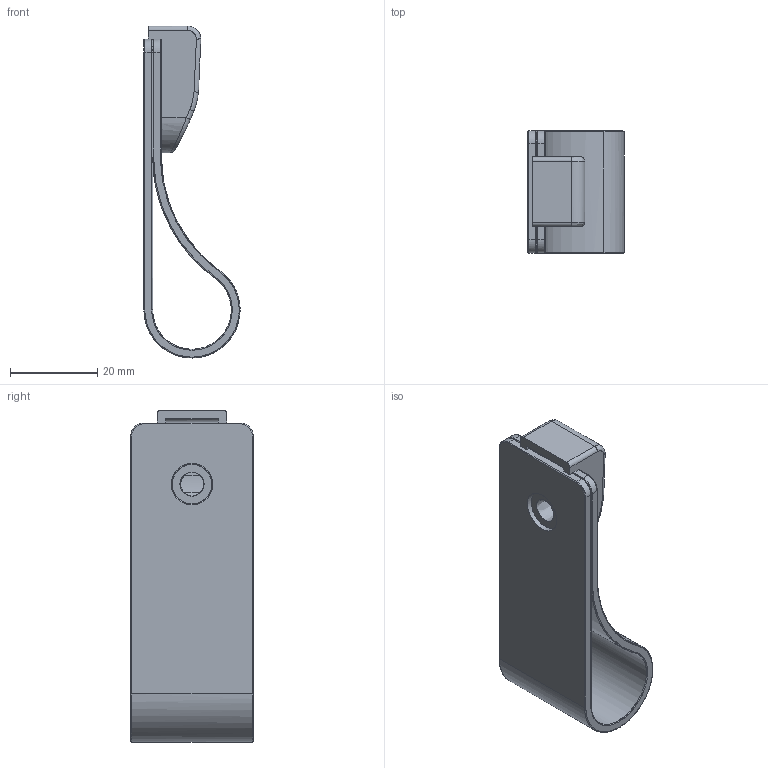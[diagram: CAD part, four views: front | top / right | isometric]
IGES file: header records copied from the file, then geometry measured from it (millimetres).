
Start section: C
Global section: file name: 8258-76.igs; native system: By Siemens PLM Incorporated; preprocessor: XPlus GENERIC/IGES 16.0.42; author: Author; organization: Title; date: 20220508.083226; units: millimetre
Bounding box: 22 x 28 x 75.98 mm (x, y, z)
Surface area: 11891.6 mm2 (no closed solid volume)
Topology: 0 solids, 0 shells, 88 faces, 434 edges, 434 vertices
Faces by surface type: bspline 88
